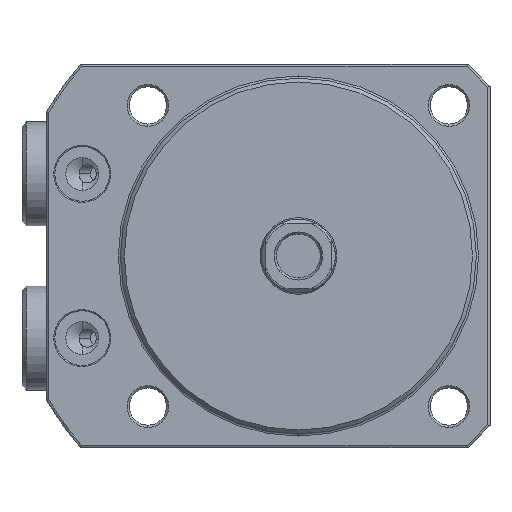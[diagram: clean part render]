
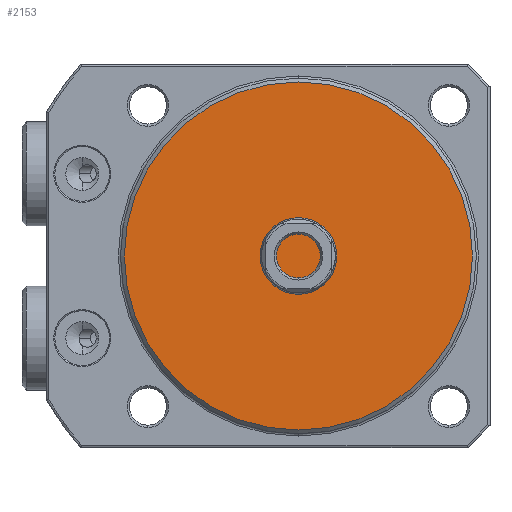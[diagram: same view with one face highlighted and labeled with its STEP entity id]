
A CAD part, front view. The second image highlights one B-rep face of the part: STEP entity #2153.
In plain terms, the highlighted planar face has unit normal (0, -1, 0) as drawn and (-1, 0, 0) by its records, which use the part's own axes.
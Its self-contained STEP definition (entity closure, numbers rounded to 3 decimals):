
#1497=PLANE('',#8181);
#2153=ADVANCED_FACE('',(#2647),#1497,.F.);
#2647=FACE_OUTER_BOUND('',#3069,.T.);
#3069=EDGE_LOOP('',(#5463));
#5463=ORIENTED_EDGE('',*,*,#7017,.T.);
#6160=VERTEX_POINT('',#13433);
#7017=EDGE_CURVE('',#6160,#6160,#7458,.T.);
#7458=CIRCLE('',#8180,31.8);
#8180=AXIS2_PLACEMENT_3D('',#13432,#9963,#9964);
#8181=AXIS2_PLACEMENT_3D('',#13434,#9965,#9966);
#9963=DIRECTION('',(-1.,0.,0.));
#9964=DIRECTION('',(0.,0.,-1.));
#9965=DIRECTION('',(1.,0.,0.));
#9966=DIRECTION('',(0.,0.,1.));
#13432=CARTESIAN_POINT('',(0.,0.,0.));
#13433=CARTESIAN_POINT('',(0.,0.,-31.8));
#13434=CARTESIAN_POINT('',(0.,0.,0.));
